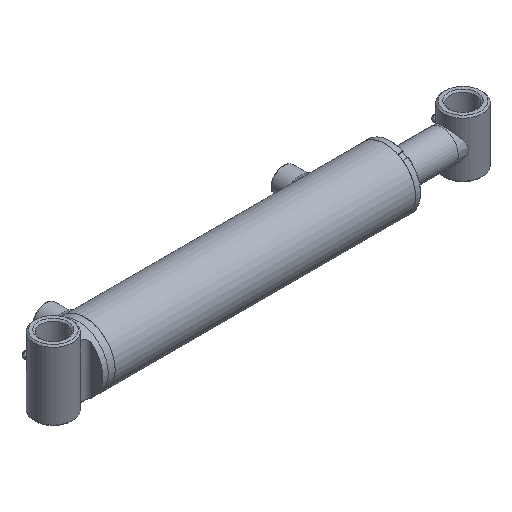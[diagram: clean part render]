
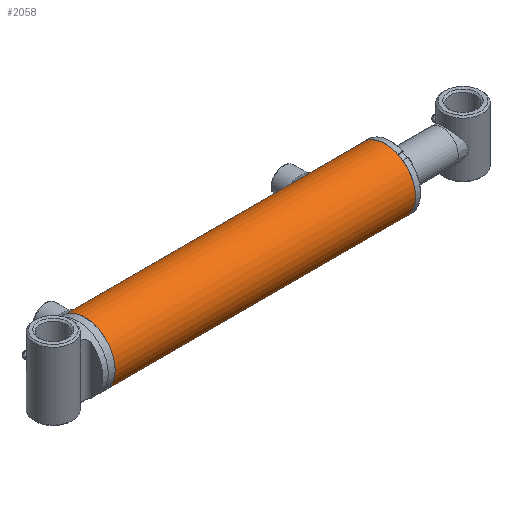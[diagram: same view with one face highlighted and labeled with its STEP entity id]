
A CAD part, isometric view. The second image highlights one B-rep face of the part: STEP entity #2058.
In plain terms, the highlighted cylindrical face has radius 30.163 mm (diameter 60.325 mm), a full revolution.
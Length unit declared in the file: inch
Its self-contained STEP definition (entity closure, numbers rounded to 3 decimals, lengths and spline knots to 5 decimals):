
#377=FACE_BOUND('',#700,.T.);
#378=FACE_BOUND('',#701,.T.);
#379=FACE_BOUND('',#702,.T.);
#500=FACE_OUTER_BOUND('',#699,.T.);
#699=EDGE_LOOP('',(#1636));
#700=EDGE_LOOP('',(#1637));
#701=EDGE_LOOP('',(#1638));
#702=EDGE_LOOP('',(#1639));
#908=CIRCLE('',#2250,1.1875);
#912=CIRCLE('',#2258,1.1875);
#1027=B_SPLINE_CURVE_WITH_KNOTS('',3,(#4725,#4726,#4727,#4728,#4729,#4730,
#4731,#4732,#4733,#4734,#4735,#4736,#4737,#4738,#4739,#4740,#4741,#4742,
#4743,#4744,#4745,#4746,#4747,#4748,#4749,#4750,#4751,#4752,#4753,#4754,
#4755,#4756,#4757,#4758),.UNSPECIFIED.,.T.,.F.,(4,2,2,2,2,2,2,2,2,2,2,2,
2,2,2,2,4),(0.,0.18872,0.37744,0.56616,0.75487,
0.94359,1.1323,1.32102,1.50975,1.69847,
1.88719,2.0759,2.26462,2.45333,2.64205,
2.83077,3.01949),.UNSPECIFIED.);
#1029=B_SPLINE_CURVE_WITH_KNOTS('',3,(#4918,#4919,#4920,#4921,#4922,#4923,
#4924,#4925,#4926,#4927,#4928,#4929,#4930,#4931,#4932,#4933,#4934,#4935,
#4936,#4937,#4938,#4939,#4940,#4941,#4942,#4943,#4944,#4945,#4946,#4947,
#4948,#4949,#4950,#4951),.UNSPECIFIED.,.T.,.F.,(4,2,2,2,2,2,2,2,2,2,2,2,
2,2,2,2,4),(0.,0.18872,0.37744,0.56616,0.75487,
0.94359,1.1323,1.32102,1.50975,1.69847,
1.88719,2.0759,2.26462,2.45333,2.64205,
2.83077,3.01949),.UNSPECIFIED.);
#1098=VERTEX_POINT('',#4724);
#1100=VERTEX_POINT('',#4917);
#1104=VERTEX_POINT('',#4961);
#1108=VERTEX_POINT('',#4973);
#1303=EDGE_CURVE('',#1098,#1098,#1027,.T.);
#1306=EDGE_CURVE('',#1100,#1100,#1029,.T.);
#1310=EDGE_CURVE('',#1104,#1104,#908,.T.);
#1314=EDGE_CURVE('',#1108,#1108,#912,.T.);
#1636=ORIENTED_EDGE('',*,*,#1314,.T.);
#1637=ORIENTED_EDGE('',*,*,#1303,.T.);
#1638=ORIENTED_EDGE('',*,*,#1306,.T.);
#1639=ORIENTED_EDGE('',*,*,#1310,.F.);
#1980=CYLINDRICAL_SURFACE('',#2260,1.1875);
#2058=ADVANCED_FACE('',(#500,#377,#378,#379),#1980,.T.);
#2250=AXIS2_PLACEMENT_3D('',#4962,#2627,#2628);
#2258=AXIS2_PLACEMENT_3D('',#4974,#2643,#2644);
#2260=AXIS2_PLACEMENT_3D('',#4976,#2647,#2648);
#2627=DIRECTION('center_axis',(1.,0.,0.));
#2628=DIRECTION('ref_axis',(0.,-1.,0.));
#2643=DIRECTION('center_axis',(1.,0.,0.));
#2644=DIRECTION('ref_axis',(0.,-1.,0.));
#2647=DIRECTION('center_axis',(1.,0.,0.));
#2648=DIRECTION('ref_axis',(0.,-1.,0.));
#4724=CARTESIAN_POINT('',(3.94094,1.17107,-0.19685));
#4725=CARTESIAN_POINT('Ctrl Pts',(3.94094,1.17107,-0.19685));
#4726=CARTESIAN_POINT('Ctrl Pts',(3.96571,1.17107,-0.19685));
#4727=CARTESIAN_POINT('Ctrl Pts',(3.9921,1.17194,-0.19189));
#4728=CARTESIAN_POINT('Ctrl Pts',(4.04058,1.17505,-0.17179));
#4729=CARTESIAN_POINT('Ctrl Pts',(4.06269,1.17725,-0.15665));
#4730=CARTESIAN_POINT('Ctrl Pts',(4.09759,1.18137,-0.12174));
#4731=CARTESIAN_POINT('Ctrl Pts',(4.11273,1.18356,-0.09964));
#4732=CARTESIAN_POINT('Ctrl Pts',(4.13284,1.18665,-0.05115));
#4733=CARTESIAN_POINT('Ctrl Pts',(4.1378,1.1875,-0.02477));
#4734=CARTESIAN_POINT('Ctrl Pts',(4.1378,1.1875,0.02477));
#4735=CARTESIAN_POINT('Ctrl Pts',(4.13284,1.18665,0.05115));
#4736=CARTESIAN_POINT('Ctrl Pts',(4.11273,1.18356,0.09964));
#4737=CARTESIAN_POINT('Ctrl Pts',(4.09759,1.18137,0.12174));
#4738=CARTESIAN_POINT('Ctrl Pts',(4.06269,1.17725,0.15665));
#4739=CARTESIAN_POINT('Ctrl Pts',(4.04058,1.17505,0.17179));
#4740=CARTESIAN_POINT('Ctrl Pts',(3.9921,1.17194,0.19189));
#4741=CARTESIAN_POINT('Ctrl Pts',(3.96571,1.17107,0.19685));
#4742=CARTESIAN_POINT('Ctrl Pts',(3.91618,1.17107,0.19685));
#4743=CARTESIAN_POINT('Ctrl Pts',(3.88979,1.17194,0.19189));
#4744=CARTESIAN_POINT('Ctrl Pts',(3.84131,1.17505,0.17179));
#4745=CARTESIAN_POINT('Ctrl Pts',(3.8192,1.17725,0.15665));
#4746=CARTESIAN_POINT('Ctrl Pts',(3.7843,1.18137,0.12174));
#4747=CARTESIAN_POINT('Ctrl Pts',(3.76916,1.18356,0.09964));
#4748=CARTESIAN_POINT('Ctrl Pts',(3.74905,1.18665,0.05115));
#4749=CARTESIAN_POINT('Ctrl Pts',(3.74409,1.1875,0.02477));
#4750=CARTESIAN_POINT('Ctrl Pts',(3.74409,1.1875,-0.02477));
#4751=CARTESIAN_POINT('Ctrl Pts',(3.74905,1.18665,-0.05115));
#4752=CARTESIAN_POINT('Ctrl Pts',(3.76916,1.18356,-0.09964));
#4753=CARTESIAN_POINT('Ctrl Pts',(3.7843,1.18137,-0.12174));
#4754=CARTESIAN_POINT('Ctrl Pts',(3.8192,1.17725,-0.15665));
#4755=CARTESIAN_POINT('Ctrl Pts',(3.84131,1.17505,-0.17179));
#4756=CARTESIAN_POINT('Ctrl Pts',(3.88979,1.17194,-0.19189));
#4757=CARTESIAN_POINT('Ctrl Pts',(3.91618,1.17107,-0.19685));
#4758=CARTESIAN_POINT('Ctrl Pts',(3.94094,1.17107,-0.19685));
#4917=CARTESIAN_POINT('',(-5.35827,1.17107,-0.19685));
#4918=CARTESIAN_POINT('Ctrl Pts',(-5.35827,1.17107,-0.19685));
#4919=CARTESIAN_POINT('Ctrl Pts',(-5.3335,1.17107,-0.19685));
#4920=CARTESIAN_POINT('Ctrl Pts',(-5.30712,1.17194,-0.19189));
#4921=CARTESIAN_POINT('Ctrl Pts',(-5.25863,1.17505,-0.17179));
#4922=CARTESIAN_POINT('Ctrl Pts',(-5.23653,1.17725,-0.15665));
#4923=CARTESIAN_POINT('Ctrl Pts',(-5.20162,1.18137,-0.12174));
#4924=CARTESIAN_POINT('Ctrl Pts',(-5.18648,1.18356,-0.09964));
#4925=CARTESIAN_POINT('Ctrl Pts',(-5.16638,1.18665,-0.05115));
#4926=CARTESIAN_POINT('Ctrl Pts',(-5.16142,1.1875,-0.02477));
#4927=CARTESIAN_POINT('Ctrl Pts',(-5.16142,1.1875,0.02477));
#4928=CARTESIAN_POINT('Ctrl Pts',(-5.16638,1.18665,0.05115));
#4929=CARTESIAN_POINT('Ctrl Pts',(-5.18648,1.18356,0.09964));
#4930=CARTESIAN_POINT('Ctrl Pts',(-5.20162,1.18137,0.12174));
#4931=CARTESIAN_POINT('Ctrl Pts',(-5.23653,1.17725,0.15665));
#4932=CARTESIAN_POINT('Ctrl Pts',(-5.25863,1.17505,0.17179));
#4933=CARTESIAN_POINT('Ctrl Pts',(-5.30712,1.17194,0.19189));
#4934=CARTESIAN_POINT('Ctrl Pts',(-5.3335,1.17107,0.19685));
#4935=CARTESIAN_POINT('Ctrl Pts',(-5.38303,1.17107,0.19685));
#4936=CARTESIAN_POINT('Ctrl Pts',(-5.40942,1.17194,0.19189));
#4937=CARTESIAN_POINT('Ctrl Pts',(-5.45791,1.17505,0.17179));
#4938=CARTESIAN_POINT('Ctrl Pts',(-5.48001,1.17725,0.15665));
#4939=CARTESIAN_POINT('Ctrl Pts',(-5.51491,1.18137,0.12174));
#4940=CARTESIAN_POINT('Ctrl Pts',(-5.53006,1.18356,0.09964));
#4941=CARTESIAN_POINT('Ctrl Pts',(-5.55016,1.18665,0.05115));
#4942=CARTESIAN_POINT('Ctrl Pts',(-5.55512,1.1875,0.02477));
#4943=CARTESIAN_POINT('Ctrl Pts',(-5.55512,1.1875,-0.02477));
#4944=CARTESIAN_POINT('Ctrl Pts',(-5.55016,1.18665,-0.05115));
#4945=CARTESIAN_POINT('Ctrl Pts',(-5.53006,1.18356,-0.09964));
#4946=CARTESIAN_POINT('Ctrl Pts',(-5.51491,1.18137,-0.12174));
#4947=CARTESIAN_POINT('Ctrl Pts',(-5.48001,1.17725,-0.15665));
#4948=CARTESIAN_POINT('Ctrl Pts',(-5.45791,1.17505,-0.17179));
#4949=CARTESIAN_POINT('Ctrl Pts',(-5.40942,1.17194,-0.19189));
#4950=CARTESIAN_POINT('Ctrl Pts',(-5.38303,1.17107,-0.19685));
#4951=CARTESIAN_POINT('Ctrl Pts',(-5.35827,1.17107,-0.19685));
#4961=CARTESIAN_POINT('',(5.94882,1.1875,0.));
#4962=CARTESIAN_POINT('Origin',(5.94882,0.,0.));
#4973=CARTESIAN_POINT('',(-5.78494,1.1875,0.));
#4974=CARTESIAN_POINT('Origin',(-5.78494,0.,0.));
#4976=CARTESIAN_POINT('Origin',(0.,0.,0.));
